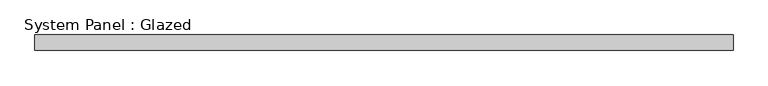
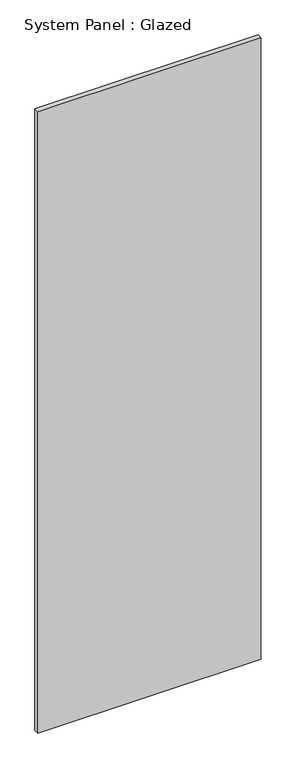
"""IFC4 building model written with IfcOpenShell, lengths in millimetres: plate geometry, System Panel : Glazed."""

from ifc_helpers import new_model, si_unit, origin, origin_with_axes, place, context, project, spatial, polyline, outline, extrude, source, transform, mapped, element, save


def system_panel_glazed_6fbf2da9(model_context):
    return source(origin(), model_context, "Body", "SweptSolid", [
        extrude(outline(polyline([(560.4201749, 24.5), (-560.4201749, 24.5), (-560.4201749, 49.5), (560.4201749, 49.5), (560.4201749, 24.5)])), origin_with_axes(), (0.0, 0.0, 1.0), 3300.0),
    ])


if __name__ == "__main__":
    model = new_model("IFC4")
    model_context = context("Model", 3, world=origin())
    ifc_project = project(units=[si_unit("LENGTHUNIT", "METRE", prefix="MILLI")], contexts=[model_context])
    site = spatial("IfcSite", under=ifc_project)
    building = spatial("IfcBuilding", under=site)
    placement = place(None, origin())
    system_panel_glazed_shape = system_panel_glazed_6fbf2da9(model_context)
    element("IfcPlate", 1, ObjectType="System Panel : Glazed", at=placement, inside=building, context=model_context, shape_type="MappedRepresentation", body=[
        mapped(system_panel_glazed_shape, transform((0.0, 0.0, 0.0), x_axis=(1.0, 0.0, 0.0), y_axis=(0.0, 1.0, 0.0), z_axis=(0.0, 0.0, 1.0))),
    ])
    save(model, "model.ifc")
